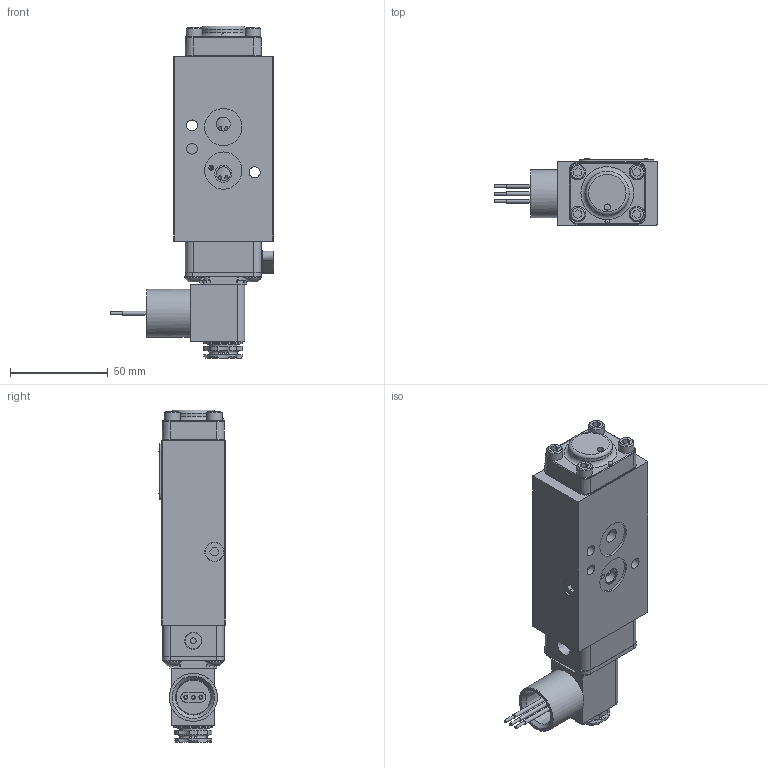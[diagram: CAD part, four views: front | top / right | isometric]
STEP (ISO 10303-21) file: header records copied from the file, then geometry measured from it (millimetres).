
FILE_DESCRIPTION(/* description */ (''),/* implementation_level */ '2;1');
FILE_NAME(/* name */ 'NSO2JOCZ.stp',/* time_stamp */ '2026-07-15T06:58:38-04:00',/* author */ ('rmckenna'),/* organization */ (''),/* preprocessor_version */ 'ST-DEVELOPER v20.1',/* originating_system */ 'Autodesk Inventor 2026',/* authorisation */ '');
FILE_SCHEMA (('AUTOMOTIVE_DESIGN { 1 0 10303 214 3 1 1 }'));
Products named in the file (1): Part29
Bounding box: 83.55 x 34.06 x 169.67 mm (x, y, z)
Volume: 187078.7 mm3; surface area: 68758.7 mm2
Topology: 1 solids, 24 shells, 1601 faces, 4021 edges, 2541 vertices
Faces by surface type: plane 694, cylinder 425, cone 255, torus 121, bspline 99, sphere 7
Full cylindrical faces by diameter (mm): 1.168 x10, 1.3 x1, 1.397 x1, 1.5 x1, 1.524 x3, 2.032 x7, 2.07 x2, 2.261 x2, 2.35 x4, 2.388 x2, 2.5 x1, 2.778 x2, 2.8 x1, 3 x4, 3.048 x1, 3.175 x3, 3.4 x1, 3.683 x9, 4.191 x2, 4.826 x8, 5.15 x4, 5.156 x8, 5.5 x1, 5.512 x1, 5.556 x2, 6.65 x1, 6.731 x1, 7.087 x1, 7.137 x3, 7.144 x4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
Entity records: 54376 total; most frequent: CARTESIAN_POINT 14234, ORIENTED_EDGE 8006, DIRECTION 7968, EDGE_CURVE 4003, AXIS2_PLACEMENT_3D 2991, VERTEX_POINT 2540, LINE 1986, VECTOR 1986
